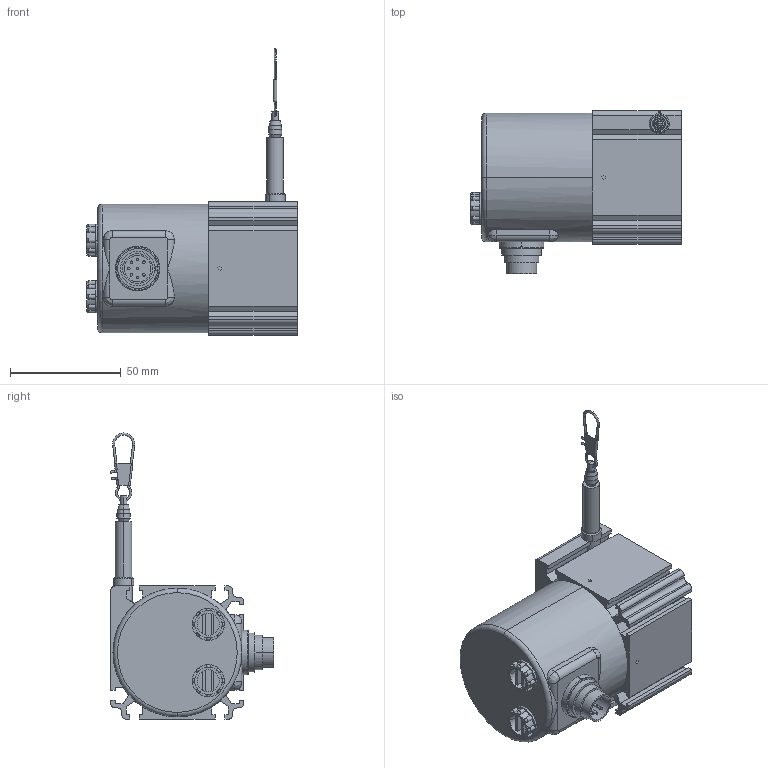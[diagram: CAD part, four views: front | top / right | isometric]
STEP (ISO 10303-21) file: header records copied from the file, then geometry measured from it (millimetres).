
FILE_DESCRIPTION((''),'2;1');
FILE_NAME('','2007-03-21T',(''),(''),'PRO/ENGINEER BY PARAMETRIC TECHNOLOGY CORPORATION, 2003250','PRO/ENGINEER BY PARAMETRIC TECHNOLOGY CORPORATION, 2003250','');
FILE_SCHEMA(('CONFIG_CONTROL_DESIGN'));
Length unit declared in the file: millimetre
Bounding box: 95 x 73.76 x 129 mm (x, y, z)
Volume: 93330 mm3; surface area: 60044.4 mm2
Topology: 1 solids, 5 shells, 529 faces, 1466 edges, 977 vertices
Faces by surface type: plane 228, cylinder 215, cone 38, bspline 24, torus 22, sphere 2
Entity records: 18119 total; most frequent: CARTESIAN_POINT 4222, DIRECTION 3057, ORIENTED_EDGE 2864, EDGE_CURVE 1432, AXIS2_PLACEMENT_3D 1208, VERTEX_POINT 977, CIRCLE 703, VECTOR 641
